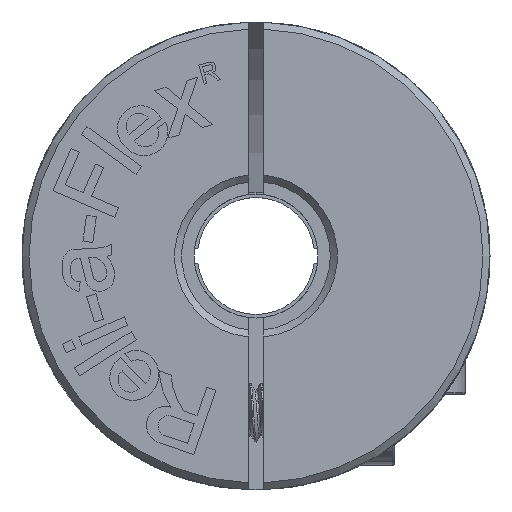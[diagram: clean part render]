
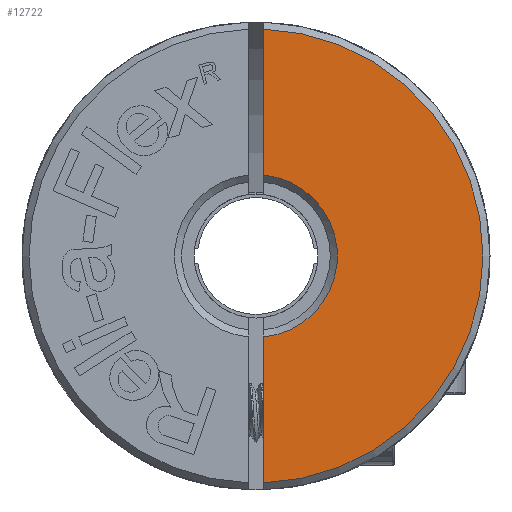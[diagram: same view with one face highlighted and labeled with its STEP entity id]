
A CAD part, front view. The second image highlights one B-rep face of the part: STEP entity #12722.
In plain terms, the highlighted planar face has unit normal (0, -1, 0).
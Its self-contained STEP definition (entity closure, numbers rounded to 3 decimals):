
#4460 = VERTEX_POINT ( 'NONE', #7006 ) ;
#4462 = VERTEX_POINT ( 'NONE', #7008 ) ;
#4463 = VERTEX_POINT ( 'NONE', #7009 ) ;
#4475 = VERTEX_POINT ( 'NONE', #7021 ) ;
#7006 = CARTESIAN_POINT ( 'NONE',  ( 0.3, 0., 9.695 ) ) ;
#7008 = CARTESIAN_POINT ( 'NONE',  ( 0.3, 0., 3.462 ) ) ;
#7009 = CARTESIAN_POINT ( 'NONE',  ( 0.3, 0., -9.695 ) ) ;
#7021 = CARTESIAN_POINT ( 'NONE',  ( 0.3, 0., -3.462 ) ) ;
#8429 = CARTESIAN_POINT ( 'NONE',  ( 0.3, 0., 9.812 ) ) ;
#8432 = FACE_OUTER_BOUND ( 'NONE', #20784, .T. ) ;
#8433 = PLANE ( 'NONE',  #9180 ) ;
#8436 = DIRECTION ( 'NONE',  ( 0., -1., 0. ) ) ;
#8437 = DIRECTION ( 'NONE',  ( 0., 0., -1. ) ) ;
#9180 = AXIS2_PLACEMENT_3D ( 'NONE', #8429, #8436, #8437 ) ;
#12181 = ORIENTED_EDGE ( 'NONE', *, *, #12596, .F. ) ;
#12182 = ORIENTED_EDGE ( 'NONE', *, *, #12597, .F. ) ;
#12183 = ORIENTED_EDGE ( 'NONE', *, *, #12580, .T. ) ;
#12184 = ORIENTED_EDGE ( 'NONE', *, *, #12575, .T. ) ;
#12575 = EDGE_CURVE ( 'NONE', #4462, #4475, #16005, .T. ) ;
#12580 = EDGE_CURVE ( 'NONE', #4460, #4462, #18293, .T. ) ;
#12596 = EDGE_CURVE ( 'NONE', #4463, #4475, #18346, .T. ) ;
#12597 = EDGE_CURVE ( 'NONE', #4460, #4463, #16076, .T. ) ;
#12722 = ADVANCED_FACE ( 'NONE', ( #8432 ), #8433, .T. ) ;
#16005 = CIRCLE ( 'NONE', #16018, 3.475 ) ;
#16016 = VECTOR ( 'NONE', #18304, 1000. ) ;
#16018 = AXIS2_PLACEMENT_3D ( 'NONE', #18287, #18288, #18289 ) ;
#16070 = VECTOR ( 'NONE', #18351, 1000. ) ;
#16076 = CIRCLE ( 'NONE', #16085, 9.7 ) ;
#16085 = AXIS2_PLACEMENT_3D ( 'NONE', #18354, #18355, #18356 ) ;
#18287 = CARTESIAN_POINT ( 'NONE',  ( 0., 0., 0. ) ) ;
#18288 = DIRECTION ( 'NONE',  ( 0., 1., 0. ) ) ;
#18289 = DIRECTION ( 'NONE',  ( 0., 0., -1. ) ) ;
#18293 = LINE ( 'NONE', #18303, #16016 ) ;
#18303 = CARTESIAN_POINT ( 'NONE',  ( 0.3, 0., 0. ) ) ;
#18304 = DIRECTION ( 'NONE',  ( 0., 0., -1. ) ) ;
#18334 = CARTESIAN_POINT ( 'NONE',  ( 0.3, 0., -6.314 ) ) ;
#18346 = LINE ( 'NONE', #18334, #16070 ) ;
#18351 = DIRECTION ( 'NONE',  ( 0., 0., 1. ) ) ;
#18354 = CARTESIAN_POINT ( 'NONE',  ( 0., 0., 0. ) ) ;
#18355 = DIRECTION ( 'NONE',  ( 0., 1., 0. ) ) ;
#18356 = DIRECTION ( 'NONE',  ( 0., 0., 1. ) ) ;
#20784 = EDGE_LOOP ( 'NONE', ( #12181, #12182, #12183, #12184 ) ) ;
